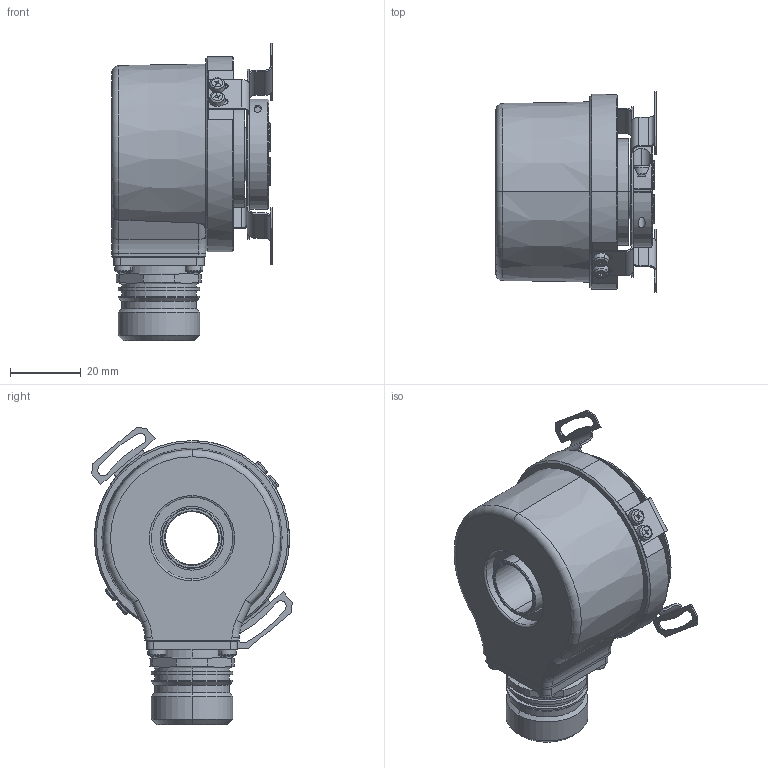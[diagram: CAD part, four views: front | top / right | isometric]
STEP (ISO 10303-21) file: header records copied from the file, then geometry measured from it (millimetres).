
FILE_DESCRIPTION (( 'STEP AP214' ), '1' );
FILE_NAME ('5020.D8X4.XXXX.STEP', '2007-08-30T09:21:09', ( 'DanneckerS' ), ( ' ' ), 'SwSTEP 2.0', 'SolidWorks 2007', '' );
FILE_SCHEMA (( 'AUTOMOTIVE_DESIGN' ));
Length unit declared in the file: millimetre
Products named in the file (1): 5020.D8X4.XXXX
Bounding box: 45.2 x 56.46 x 83.69 mm (x, y, z)
Surface area: 24475.2 mm2 (no closed solid volume)
Topology: 0 solids, 43 shells, 487 faces, 1393 edges, 916 vertices
Faces by surface type: plane 185, cylinder 173, cone 47, torus 46, sphere 32, bspline 4
Entity records: 21570 total; most frequent: CARTESIAN_POINT 3273, DIRECTION 2940, ORIENTED_EDGE 2415, EDGE_CURVE 1369, AXIS2_PLACEMENT_3D 1159, VERTEX_POINT 916, CIRCLE 675, LINE 622
